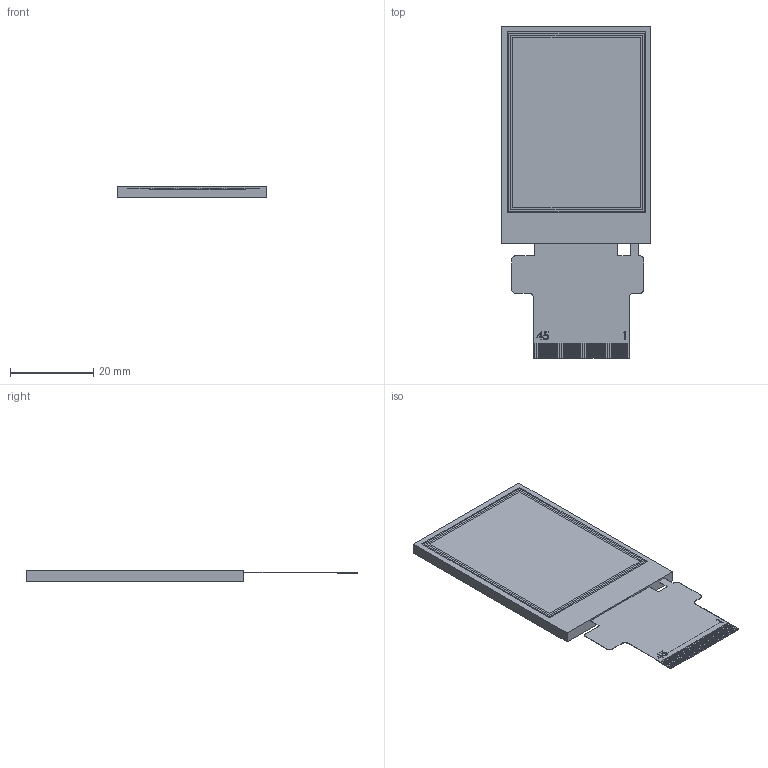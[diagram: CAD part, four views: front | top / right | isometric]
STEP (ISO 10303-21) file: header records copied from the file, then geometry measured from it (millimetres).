
FILE_DESCRIPTION (( 'STEP AP214' ), '1' );
FILE_NAME ('CFAF240320D0-020FN.STEP', '2023-06-15T20:49:16', ( '' ), ( '' ), 'SwSTEP 2.0', 'SolidWorks 2021', '' );
FILE_SCHEMA (( 'AUTOMOTIVE_DESIGN' ));
Length unit declared in the file: millimetre
Products named in the file (1): CFAF240320D0-020FN
Bounding box: 35.8 x 79.6 x 2.65 mm (x, y, z)
Volume: 5035.8 mm3; surface area: 5633.6 mm2
Topology: 1 solids, 1 shells, 251 faces, 739 edges, 498 vertices
Faces by surface type: plane 237, bspline 8, cylinder 6
Entity records: 8715 total; most frequent: CARTESIAN_POINT 2009, ORIENTED_EDGE 1478, DIRECTION 1223, EDGE_CURVE 739, VECTOR 711, LINE 711, VERTEX_POINT 498, EDGE_LOOP 261
